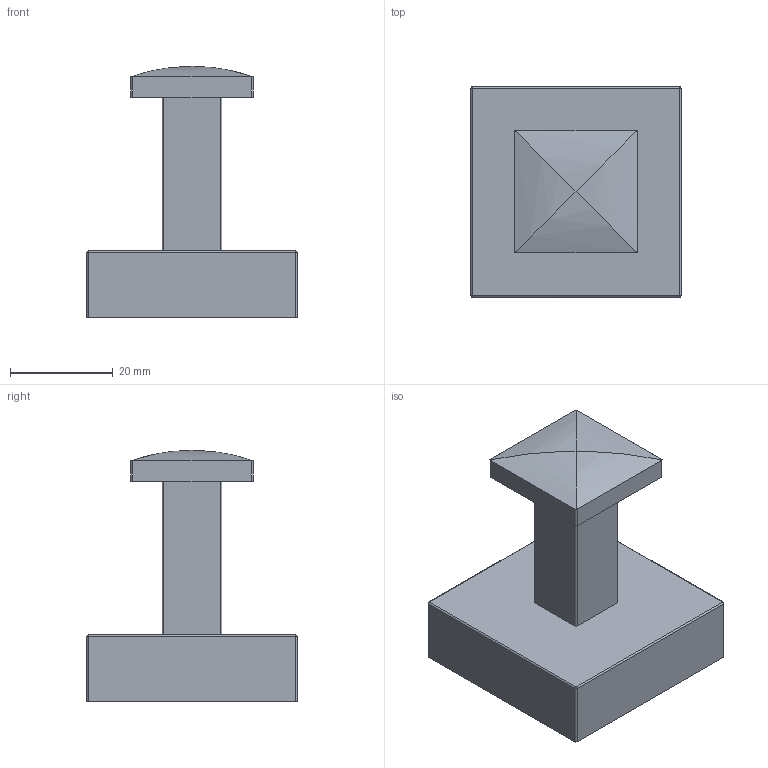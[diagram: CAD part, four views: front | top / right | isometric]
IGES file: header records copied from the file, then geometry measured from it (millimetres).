
Global section: file name: 23d6179c-9354-4560-867d-db6947668dd0; native system: unknown; preprocessor: unknown; author: unknown; organization: unknown; date: 20200108.144037; units: millimetre
Bounding box: 41 x 41 x 49 mm (x, y, z)
Volume: 15461.4 mm3; surface area: 10730.6 mm2
Topology: 2 solids, 2 shells, 46 faces, 104 edges, 65 vertices
Faces by surface type: bspline 46
